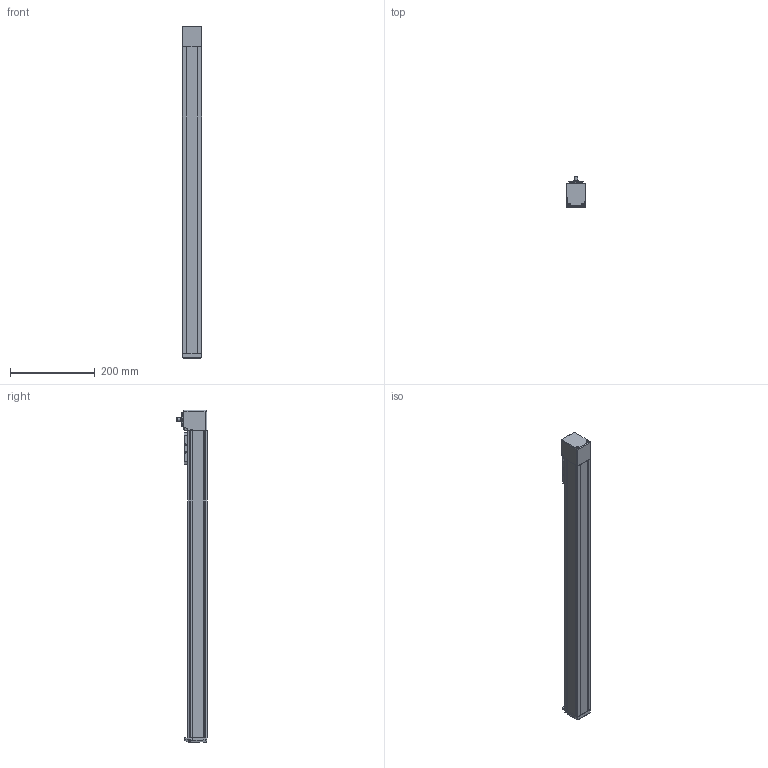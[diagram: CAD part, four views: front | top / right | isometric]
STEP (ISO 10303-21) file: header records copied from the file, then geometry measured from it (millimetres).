
FILE_DESCRIPTION(/* description */ ('STEP AP203'),/* implementation_level */ '2;1');
FILE_NAME(/* name */ 'MGTB 45 600(0)',/* time_stamp */ '2023-04-17T14:32:49+02:00',/* author */ ('License CC BY-ND 4.0'),/* organization */ ('CADENAS'),/* preprocessor_version */ 'ST-DEVELOPER v19.3',/* originating_system */ 'PARTsolutions',/* authorisation */ ' ');
FILE_SCHEMA (('CONFIG_CONTROL_DESIGN'));
Length unit declared in the file: millimetre
Products named in the file (6): MGTB 45 600(0); MGTB 45 600_protection_strip; MGTB 45_carriage; MGTB 45_end_block; MGTB 45 600_profile; MGTB 45_drive_block
Assembly tree (5 placements, depth 2):
  MGTB 45 600(0)
    MGTB 45 600_protection_strip
    MGTB 45_carriage
    MGTB 45_end_block
    MGTB 45 600_profile
    MGTB 45_drive_block
Bounding box: 45 x 70.85 x 783 mm (x, y, z)
Volume: 1545272.9 mm3; surface area: 242878.3 mm2
Topology: 5 solids, 5 shells, 689 faces, 1789 edges, 1148 vertices
Faces by surface type: plane 324, cylinder 173, cone 95, bspline 68, torus 27, sphere 2
Full cylindrical faces by diameter (mm): 1.755 x4, 2.459 x10, 2.5 x6, 3 x6, 3.242 x8, 3.8 x6, 4 x2, 4.5 x2, 5.5 x4, 6.5 x4, 8 x1, 11 x3, 12 x1, 17.12 x1, 17.5 x1, 22.5 x1, 22.88 x1, 24.5 x1, 28 x1, 34 x2
Entity records: 25091 total; most frequent: CARTESIAN_POINT 4283, DIRECTION 3440, ORIENTED_EDGE 3206, EDGE_CURVE 1603, AXIS2_PLACEMENT_3D 1244, VERTEX_POINT 1133, LINE 952, VECTOR 952
